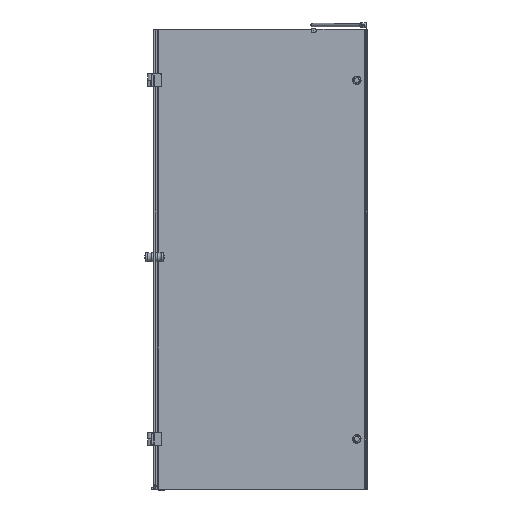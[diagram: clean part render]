
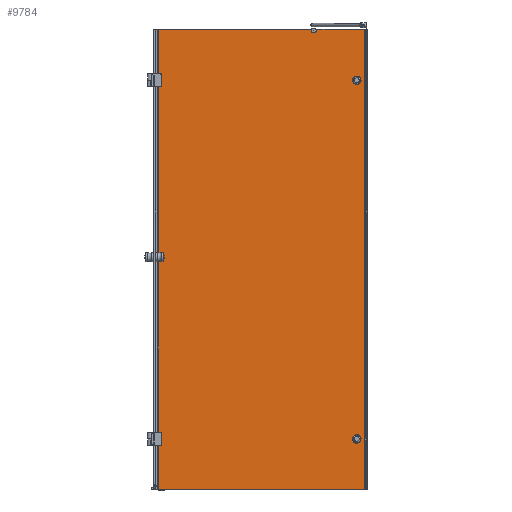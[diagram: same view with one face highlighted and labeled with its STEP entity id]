
A CAD part, left-side view. The second image highlights one B-rep face of the part: STEP entity #9784.
In plain terms, the highlighted planar face has unit normal (-1, 0, 0).
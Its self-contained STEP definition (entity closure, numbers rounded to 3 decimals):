
#571=FACE_OUTER_BOUND($,#1090,.T.);
#1090=EDGE_LOOP($,(#7466,#7467,#7468,#7469,#7470,#7471,#7472,#7473,#7474,
#7475,#7476,#7477,#7478,#7479,#7480,#7481,#7482));
#1473=CIRCLE($,#10457,16.);
#1476=CIRCLE($,#10462,0.5);
#1486=CIRCLE($,#10488,16.);
#1489=CIRCLE($,#10499,10.);
#2258=LINE($,#15650,#3246);
#2259=LINE($,#15652,#3247);
#2260=LINE($,#15654,#3248);
#2261=LINE($,#15656,#3249);
#2262=LINE($,#15658,#3250);
#2263=LINE($,#15660,#3251);
#2264=LINE($,#15662,#3252);
#2265=LINE($,#15666,#3253);
#2266=LINE($,#15668,#3254);
#2267=LINE($,#15670,#3255);
#2268=LINE($,#15672,#3256);
#2269=LINE($,#15674,#3257);
#2270=LINE($,#15675,#3258);
#3246=VECTOR($,#12438,12.192);
#3247=VECTOR($,#12439,2.);
#3248=VECTOR($,#12440,5.581);
#3249=VECTOR($,#12441,0.019);
#3250=VECTOR($,#12442,847.7);
#3251=VECTOR($,#12443,1900.);
#3252=VECTOR($,#12444,198.774);
#3253=VECTOR($,#12447,632.066);
#3254=VECTOR($,#12448,1898.);
#3255=VECTOR($,#12449,1.213);
#3256=VECTOR($,#12450,1898.);
#3257=VECTOR($,#12451,3.387);
#3258=VECTOR($,#12452,1884.733);
#4168=VERTEX_POINT($,#15508);
#4169=VERTEX_POINT($,#15510);
#4172=VERTEX_POINT($,#15529);
#4192=VERTEX_POINT($,#15620);
#4194=VERTEX_POINT($,#15649);
#4195=VERTEX_POINT($,#15651);
#4196=VERTEX_POINT($,#15653);
#4197=VERTEX_POINT($,#15655);
#4198=VERTEX_POINT($,#15657);
#4199=VERTEX_POINT($,#15659);
#4200=VERTEX_POINT($,#15661);
#4201=VERTEX_POINT($,#15663);
#4202=VERTEX_POINT($,#15665);
#4203=VERTEX_POINT($,#15667);
#4204=VERTEX_POINT($,#15669);
#4205=VERTEX_POINT($,#15671);
#4206=VERTEX_POINT($,#15673);
#5314=EDGE_CURVE($,#4168,#4169,#1473,.T.);
#5320=EDGE_CURVE($,#4172,#4168,#1476,.T.);
#5356=EDGE_CURVE($,#4192,#4172,#1486,.T.);
#5365=EDGE_CURVE($,#4192,#4194,#2258,.T.);
#5366=EDGE_CURVE($,#4194,#4195,#2259,.T.);
#5367=EDGE_CURVE($,#4195,#4196,#2260,.T.);
#5368=EDGE_CURVE($,#4196,#4197,#2261,.T.);
#5369=EDGE_CURVE($,#4197,#4198,#2262,.T.);
#5370=EDGE_CURVE($,#4199,#4198,#2263,.T.);
#5371=EDGE_CURVE($,#4200,#4199,#2264,.T.);
#5372=EDGE_CURVE($,#4201,#4200,#1489,.T.);
#5373=EDGE_CURVE($,#4202,#4201,#2265,.T.);
#5374=EDGE_CURVE($,#4202,#4203,#2266,.T.);
#5375=EDGE_CURVE($,#4204,#4203,#2267,.T.);
#5376=EDGE_CURVE($,#4205,#4204,#2268,.T.);
#5377=EDGE_CURVE($,#4206,#4205,#2269,.T.);
#5378=EDGE_CURVE($,#4206,#4169,#2270,.T.);
#7466=ORIENTED_EDGE($,*,*,#5356,.F.);
#7467=ORIENTED_EDGE($,*,*,#5365,.T.);
#7468=ORIENTED_EDGE($,*,*,#5366,.T.);
#7469=ORIENTED_EDGE($,*,*,#5367,.T.);
#7470=ORIENTED_EDGE($,*,*,#5368,.T.);
#7471=ORIENTED_EDGE($,*,*,#5369,.T.);
#7472=ORIENTED_EDGE($,*,*,#5370,.F.);
#7473=ORIENTED_EDGE($,*,*,#5371,.F.);
#7474=ORIENTED_EDGE($,*,*,#5372,.F.);
#7475=ORIENTED_EDGE($,*,*,#5373,.F.);
#7476=ORIENTED_EDGE($,*,*,#5374,.T.);
#7477=ORIENTED_EDGE($,*,*,#5375,.F.);
#7478=ORIENTED_EDGE($,*,*,#5376,.F.);
#7479=ORIENTED_EDGE($,*,*,#5377,.F.);
#7480=ORIENTED_EDGE($,*,*,#5378,.T.);
#7481=ORIENTED_EDGE($,*,*,#5314,.F.);
#7482=ORIENTED_EDGE($,*,*,#5320,.F.);
#8833=PLANE($,#10498);
#9784=ADVANCED_FACE($,(#571),#8833,.F.);
#10457=AXIS2_PLACEMENT_3D($,#15511,#12324,#12325);
#10462=AXIS2_PLACEMENT_3D($,#15531,#12336,#12337);
#10488=AXIS2_PLACEMENT_3D($,#15631,#12410,#12411);
#10498=AXIS2_PLACEMENT_3D($,#15648,#12436,#12437);
#10499=AXIS2_PLACEMENT_3D($,#15664,#12445,#12446);
#12324=DIRECTION('center_axis',(1.,0.,0.));
#12325=DIRECTION('ref_axis',(0.,-0.747,
0.665));
#12336=DIRECTION('center_axis',(-1.,0.,0.));
#12337=DIRECTION('ref_axis',(0.,0.169,-0.986));
#12410=DIRECTION('center_axis',(-1.,0.,0.));
#12411=DIRECTION('ref_axis',(0.,0.71,-0.704));
#12436=DIRECTION('center_axis',(1.,0.,0.));
#12437=DIRECTION('ref_axis',(0.,-1.,0.));
#12438=DIRECTION($,(0.,0.,-1.));
#12439=DIRECTION($,(0.,0.,-1.));
#12440=DIRECTION($,(0.,-1.,0.));
#12441=DIRECTION($,(0.,-1.,0.));
#12442=DIRECTION($,(0.,-1.,0.));
#12443=DIRECTION($,(0.,0.,-1.));
#12444=DIRECTION($,(0.,-1.,0.));
#12445=DIRECTION('center_axis',(-1.,0.,0.));
#12446=DIRECTION('ref_axis',(0.,0.,
-1.));
#12447=DIRECTION($,(0.,-1.,0.));
#12448=DIRECTION($,(0.,0.,-1.));
#12449=DIRECTION($,(0.,-1.,0.));
#12450=DIRECTION($,(0.,0.,-1.));
#12451=DIRECTION($,(0.,-1.,0.));
#12452=DIRECTION($,(0.,0.,-1.));
#15508=CARTESIAN_POINT('',(1240.019,-98.149,-499.067));
#15510=CARTESIAN_POINT('',(1240.019,-97.044,-498.789));
#15511=CARTESIAN_POINT('Origin',(1240.019,-101.499,-483.421));
#15529=CARTESIAN_POINT('',(1240.019,-97.959,-500.048));
#15531=CARTESIAN_POINT('Origin',(1240.019,-98.044,-499.556));
#15620=CARTESIAN_POINT('',(1240.019,-97.044,-499.863));
#15631=CARTESIAN_POINT('Origin',(1240.019,-100.669,-484.28));
#15648=CARTESIAN_POINT('Origin',(1240.019,-97.044,1385.944));
#15649=CARTESIAN_POINT('',(1240.019,-97.044,-512.056));
#15650=CARTESIAN_POINT($,(1240.019,-97.044,1385.944));
#15651=CARTESIAN_POINT('',(1240.019,-97.044,-514.056));
#15652=CARTESIAN_POINT($,(1240.019,-97.044,1385.944));
#15653=CARTESIAN_POINT('',(1240.019,-102.625,-514.056));
#15654=CARTESIAN_POINT($,(1240.019,-97.044,-514.056));
#15655=CARTESIAN_POINT('',(1240.019,-102.644,-514.056));
#15656=CARTESIAN_POINT($,(1240.019,-97.044,-514.056));
#15657=CARTESIAN_POINT('',(1240.019,-950.344,-514.056));
#15658=CARTESIAN_POINT($,(1240.019,-97.044,-514.056));
#15659=CARTESIAN_POINT('',(1240.019,-950.344,1385.944));
#15660=CARTESIAN_POINT($,(1240.019,-950.344,435.944));
#15661=CARTESIAN_POINT('',(1240.019,-751.57,1385.944));
#15662=CARTESIAN_POINT($,(1240.019,-97.044,1385.944));
#15663=CARTESIAN_POINT('',(1240.019,-733.71,1385.944));
#15664=CARTESIAN_POINT('Origin',(1240.019,-742.64,1381.444));
#15665=CARTESIAN_POINT('',(1240.019,-101.644,1385.944));
#15666=CARTESIAN_POINT($,(1240.019,-97.044,1385.944));
#15667=CARTESIAN_POINT('',(1240.019,-101.644,-512.056));
#15668=CARTESIAN_POINT($,(1240.019,-101.644,1385.944));
#15669=CARTESIAN_POINT('',(1240.019,-100.431,-512.056));
#15670=CARTESIAN_POINT($,(1240.019,-97.636,-512.056));
#15671=CARTESIAN_POINT('',(1240.019,-100.431,1385.944));
#15672=CARTESIAN_POINT($,(1240.019,-100.431,1385.944));
#15673=CARTESIAN_POINT('',(1240.019,-97.044,1385.944));
#15674=CARTESIAN_POINT($,(1240.019,-97.044,1385.944));
#15675=CARTESIAN_POINT($,(1240.019,-97.044,1385.944));
